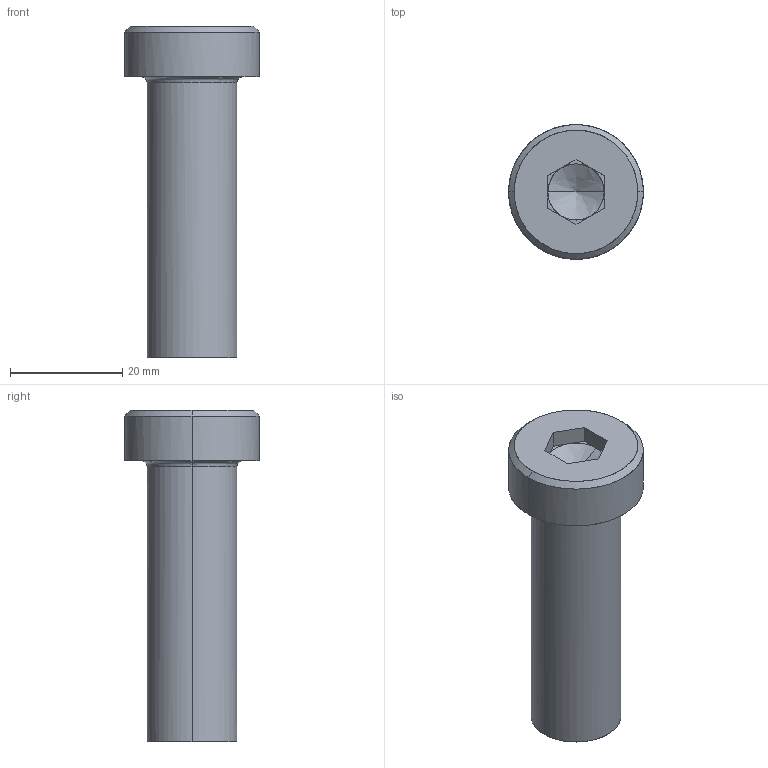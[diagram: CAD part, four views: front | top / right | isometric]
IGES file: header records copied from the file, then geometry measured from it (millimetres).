
Global section: file name: E:\UnigraphicsGraphicData\MISUMI_PRESS-PARTS\IGES\3d_sbtkn16-50_05170_r00.igs; native system: NX V5.0; preprocessor: UGS NX IGES V5.0; author: MISUMI; date: 20110105.162503; units: millimetre
Bounding box: 24 x 24 x 59 mm (x, y, z)
Surface area: 4901.8 mm2 (no closed solid volume)
Topology: 0 solids, 0 shells, 32 faces, 178 edges, 174 vertices
Faces by surface type: bspline 32
